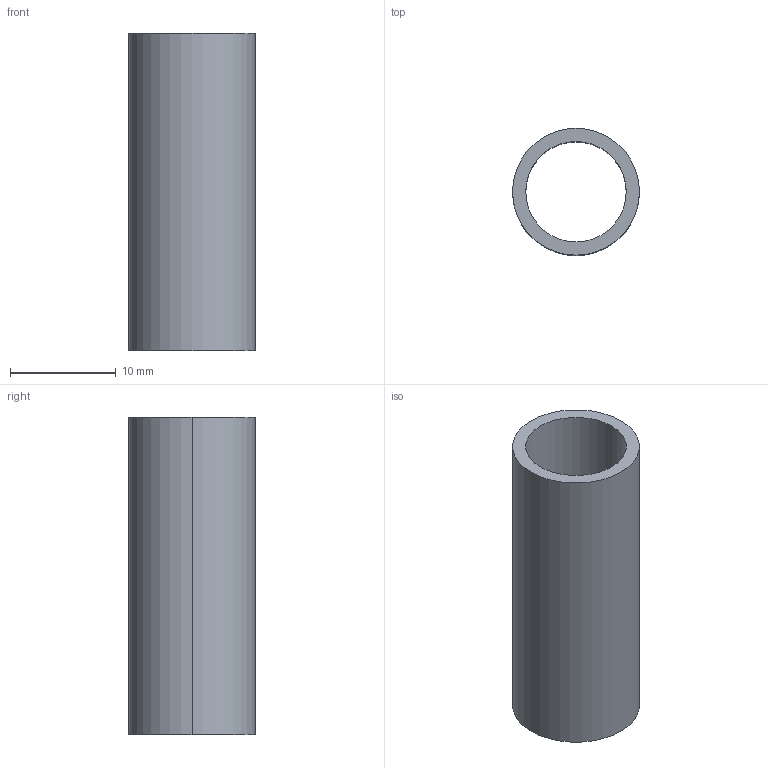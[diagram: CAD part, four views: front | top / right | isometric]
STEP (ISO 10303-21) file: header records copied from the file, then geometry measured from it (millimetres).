
FILE_DESCRIPTION (( 'STEP AP214' ), '1' );
FILE_NAME ('Rohr_Ø12.STEP', '2015-11-23T15:25:11', ( 'HP' ), ( 'Hewlett-Packard Company' ), 'SwSTEP 2.0', 'SolidWorks 2014', '' );
FILE_SCHEMA (( 'AUTOMOTIVE_DESIGN' ));
Length unit declared in the file: millimetre
Products named in the file (1): Rohr_ﾘ12
Bounding box: 12 x 12 x 30 mm (x, y, z)
Volume: 1266.5 mm3; surface area: 2110.8 mm2
Topology: 1 solids, 1 shells, 6 faces, 12 edges, 8 vertices
Faces by surface type: cylinder 4, plane 2
Entity records: 202 total; most frequent: DIRECTION 34, CARTESIAN_POINT 27, ORIENTED_EDGE 24, AXIS2_PLACEMENT_3D 15, EDGE_CURVE 12, VERTEX_POINT 8, EDGE_LOOP 8, CIRCLE 8
